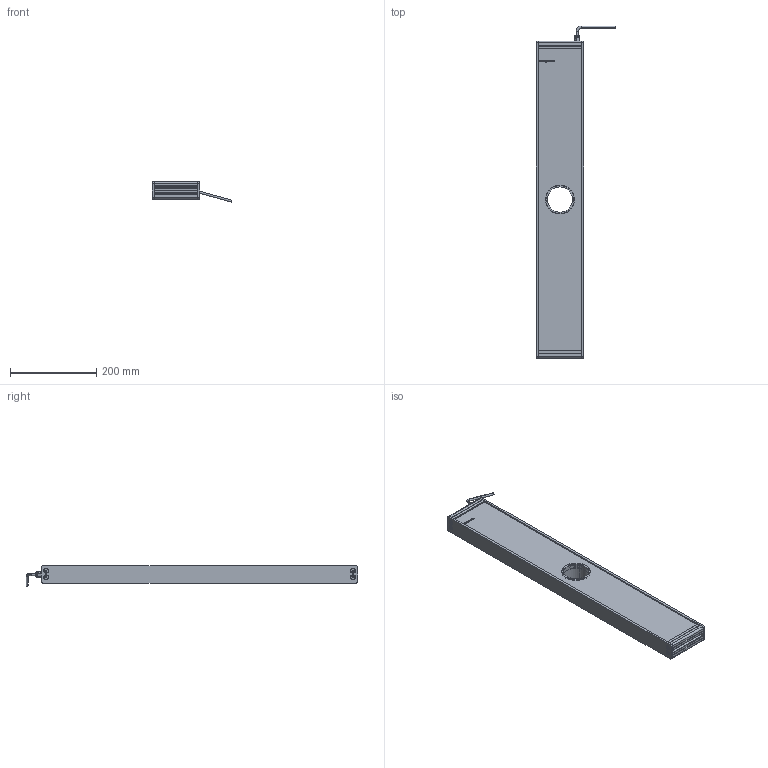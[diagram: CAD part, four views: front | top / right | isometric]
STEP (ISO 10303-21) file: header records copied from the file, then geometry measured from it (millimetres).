
FILE_DESCRIPTION (( 'STEP AP214' ), '1' );
FILE_NAME ('EFFI-FD-100T-700-M12 Ø58.5.STEP', '2021-07-02T12:00:32', ( '' ), ( '' ), 'SwSTEP 2.0', 'SolidWorks 2021', '' );
FILE_SCHEMA (( 'AUTOMOTIVE_DESIGN' ));
Length unit declared in the file: millimetre
Products named in the file (11): profile modif_lg 99.5 mm; Pièce2^EFFI-FD-XXXT-YYY-M12 Ø58.5; 003776; cordon_Avec cable; bord fin modif_lg 436.5 mm; 000590; Assemblage Ø58.5; EFFI-FD-100T-700-M12 Ø58.5; 001037; 001038
Assembly tree (20 placements, depth 3):
  EFFI-FD-100T-700-M12 Ø58.5
    profile modif_lg 99.5 mm
    bord fin modif_lg 436.5 mm  x2
    Pièce2^EFFI-FD-XXXT-YYY-M12 Ø58.5
    profile modif_lg 99.5 mm
    003776  x8
    cordon_Avec cable
    Assemblage Ø58.5
      001037
      001038
      000590  x3
Bounding box: 184.41 x 771.15 x 47.08 mm (x, y, z)
Volume: 2753356 mm3; surface area: 397496.9 mm2
Topology: 18 solids, 24 shells, 997 faces, 2503 edges, 1569 vertices
Faces by surface type: plane 391, cylinder 231, bspline 180, cone 152, torus 35, sphere 8
Entity records: 25439 total; most frequent: CARTESIAN_POINT 8620, ORIENTED_EDGE 3290, DIRECTION 3029, EDGE_CURVE 1649, VERTEX_POINT 1066, AXIS2_PLACEMENT_3D 1021, LINE 987, VECTOR 987
